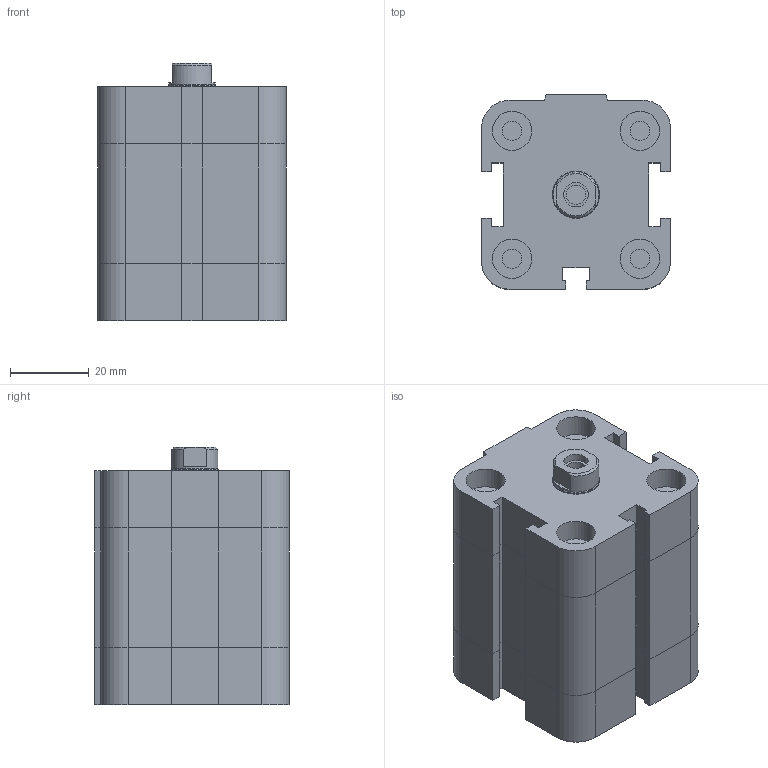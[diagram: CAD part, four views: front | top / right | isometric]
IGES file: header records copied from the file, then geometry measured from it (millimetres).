
Global section: file name: No Iges File Name specified; native system: Autodesk Inventor 2009; preprocessor: AutoDesk Inventor Iges Exporter R2009; author: rivolro1; date: 20081219.152211; units: millimetre
Bounding box: 48 x 49.5 x 65.5 mm (x, y, z)
Volume: 118757.6 mm3; surface area: 24747.2 mm2
Topology: 2 solids, 2 shells, 187 faces, 410 edges, 248 vertices
Faces by surface type: plane 112, bspline 39, revolution 16, cylinder 16, cone 4
